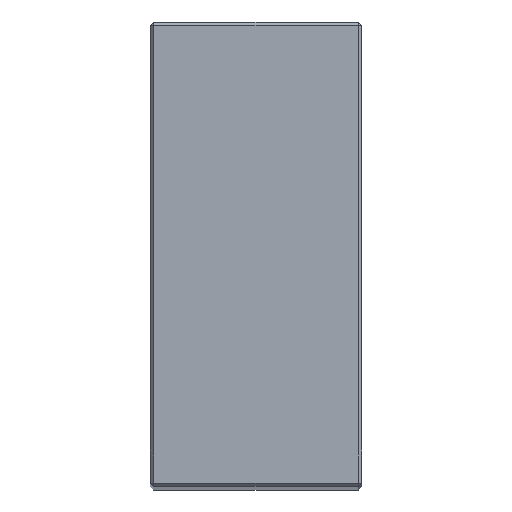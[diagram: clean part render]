
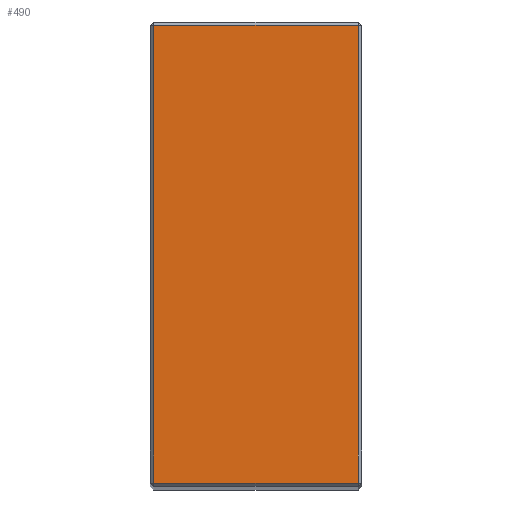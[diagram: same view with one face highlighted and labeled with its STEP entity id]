
A CAD part, top view. The second image highlights one B-rep face of the part: STEP entity #490.
In plain terms, the highlighted planar face has unit normal (0, 0, 1).
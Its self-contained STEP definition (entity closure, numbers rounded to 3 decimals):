
#55 = LINE ( 'NONE', #113, #239 ) ;
#56 = DIRECTION ( 'NONE',  ( 0., 1., 0. ) ) ;
#65 = VECTOR ( 'NONE', #56, 1000. ) ;
#113 = CARTESIAN_POINT ( 'NONE',  ( 31., 1., 298. ) ) ;
#118 = CARTESIAN_POINT ( 'NONE',  ( 30., 136., 298. ) ) ;
#121 = VERTEX_POINT ( 'NONE', #356 ) ;
#138 = EDGE_LOOP ( 'NONE', ( #590, #354, #573, #586 ) ) ;
#139 = VERTEX_POINT ( 'NONE', #298 ) ;
#156 = EDGE_CURVE ( 'NONE', #121, #190, #55, .T. ) ;
#180 = CARTESIAN_POINT ( 'NONE',  ( 30., 135., 298. ) ) ;
#190 = VERTEX_POINT ( 'NONE', #441 ) ;
#193 = DIRECTION ( 'NONE',  ( 0., 0., -1. ) ) ;
#197 = DIRECTION ( 'NONE',  ( -1., 0., 0. ) ) ;
#239 = VECTOR ( 'NONE', #491, 1000. ) ;
#245 = EDGE_CURVE ( 'NONE', #404, #139, #467, .T. ) ;
#276 = EDGE_CURVE ( 'NONE', #139, #121, #437, .T. ) ;
#298 = CARTESIAN_POINT ( 'NONE',  ( -30., 135., 298. ) ) ;
#299 = FACE_OUTER_BOUND ( 'NONE', #138, .T. ) ;
#347 = VECTOR ( 'NONE', #397, 1000. ) ;
#354 = ORIENTED_EDGE ( 'NONE', *, *, #276, .T. ) ;
#356 = CARTESIAN_POINT ( 'NONE',  ( -30., 1., 298. ) ) ;
#372 = CARTESIAN_POINT ( 'NONE',  ( -31., 135., 298. ) ) ;
#391 = EDGE_CURVE ( 'NONE', #190, #404, #613, .T. ) ;
#397 = DIRECTION ( 'NONE',  ( 0., -1., 0. ) ) ;
#403 = CARTESIAN_POINT ( 'NONE',  ( -30., 136., 298. ) ) ;
#404 = VERTEX_POINT ( 'NONE', #180 ) ;
#437 = LINE ( 'NONE', #403, #347 ) ;
#441 = CARTESIAN_POINT ( 'NONE',  ( 30., 1., 298. ) ) ;
#459 = AXIS2_PLACEMENT_3D ( 'NONE', #485, #193, #197 ) ;
#465 = VECTOR ( 'NONE', #623, 1000. ) ;
#467 = LINE ( 'NONE', #372, #465 ) ;
#485 = CARTESIAN_POINT ( 'NONE',  ( 31., 136., 298. ) ) ;
#490 = ADVANCED_FACE ( 'NONE', ( #299 ), #598, .F. ) ;
#491 = DIRECTION ( 'NONE',  ( 1., 0., 0. ) ) ;
#573 = ORIENTED_EDGE ( 'NONE', *, *, #156, .T. ) ;
#586 = ORIENTED_EDGE ( 'NONE', *, *, #391, .T. ) ;
#590 = ORIENTED_EDGE ( 'NONE', *, *, #245, .T. ) ;
#598 = PLANE ( 'NONE',  #459 ) ;
#613 = LINE ( 'NONE', #118, #65 ) ;
#623 = DIRECTION ( 'NONE',  ( -1., 0., 0. ) ) ;
